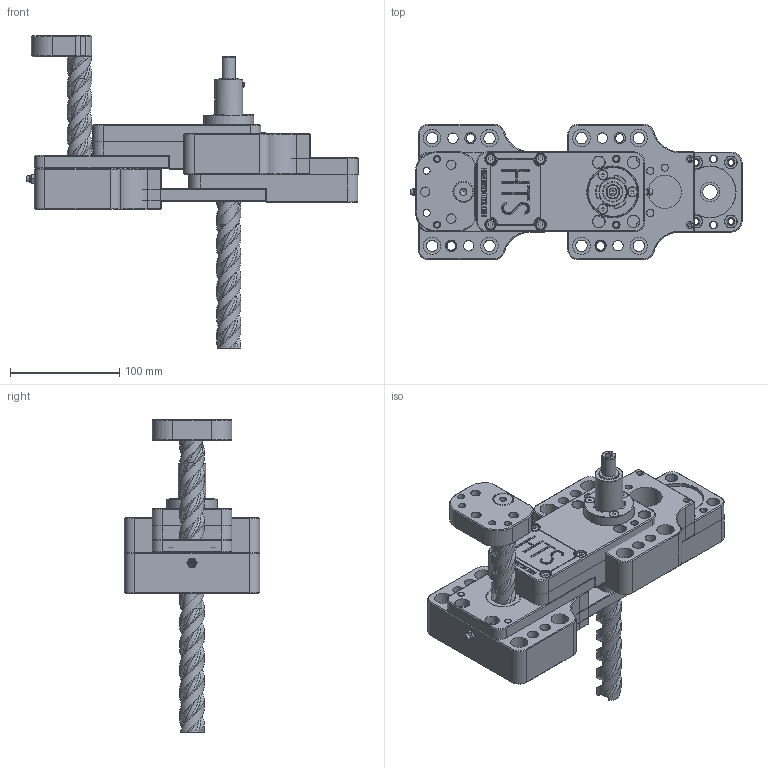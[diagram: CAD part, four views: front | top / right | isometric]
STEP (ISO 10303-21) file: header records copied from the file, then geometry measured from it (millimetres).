
FILE_DESCRIPTION( ( 'Unknown' ), '1' );
FILE_NAME( 'J:/1 Customer Files/HTS/HTS3000 SERIES/simplified_reps/3100-000/3000-000-3instrk.stp', 'Unknown', ( 'Unknown' ), ( 'Unknown' ), 'PSStep 14.0', 'Unknown', ' ' );
FILE_SCHEMA( ( 'AUTOMOTIVE_DESIGN { 1 0 10303 214 1 1 1 1 }' ) );
Length unit declared in the file: millimetre
Products named in the file (21): Assem1; 3008-000_0; 3017-000_0; 3006A-000; 3007A-000; 3016-000; 3025-000_0; 3034-000; 3018-000; 3007B-000; 3021-000; 3035-000; 3012-000_0; 3019-000; 3028-000; 3036-000; 3006B-000; 3022-440_0; 3020-040; 3023-194; 3011-003
Bounding box: 303.45 x 123.83 x 285.75 mm (x, y, z)
Volume: 1992130.7 mm3; surface area: 470086.2 mm2
Topology: 49 solids, 49 shells, 1954 faces, 4965 edges, 3227 vertices
Faces by surface type: plane 800, cylinder 579, cone 281, bspline 226, torus 60, sphere 8
Full cylindrical faces by diameter (mm): 1.587 x6, 2.381 x8, 2.769 x2, 3.307 x8, 3.454 x2, 3.493 x5, 3.551 x12, 3.797 x8, 4.166 x14, 4.216 x8, 4.709 x5, 4.915 x6, 4.928 x2, 5.156 x8, 5.41 x4, 5.766 x5, 6.35 x71, 6.528 x16, 7.144 x8, 7.805 x4, 7.938 x8, 8.712 x16, 8.731 x6, 8.738 x4, 8.763 x2, 9.058 x2, 9.525 x9, 10.16 x8, 10.319 x12, 11.113 x8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
Entity records: 59153 total; most frequent: CARTESIAN_POINT 31827, ORIENTED_EDGE 3876, DIRECTION 3864, EDGE_CURVE 1938, AXIS2_PLACEMENT_3D 1487, VERTEX_POINT 1395, EDGE_LOOP 1366, FACE_OUTER_BOUND 1079
